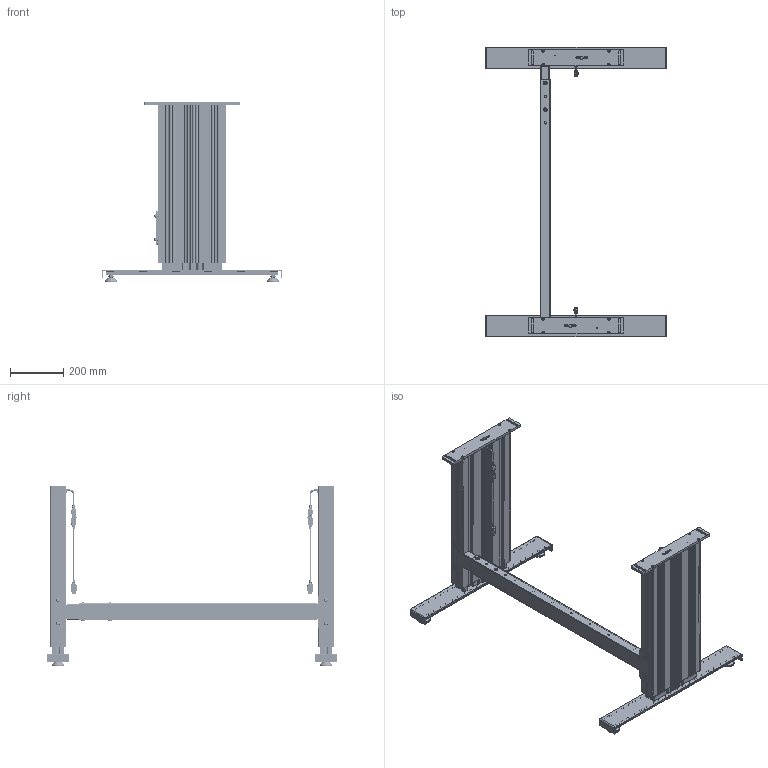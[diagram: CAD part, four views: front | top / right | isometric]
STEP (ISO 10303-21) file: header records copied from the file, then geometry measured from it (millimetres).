
FILE_DESCRIPTION(/* description */ ('Unknown'),/* implementation_level */ '2;1');
FILE_NAME(/* name */ 'Untergestell SL-2 1340 960-1610 XX XX_01-Eingefahren',/* time_stamp */ '2022-01-25T16:43:19+01:00',/* author */ ('Unknown'),/* organization */ ('Unknown'),/* preprocessor_version */ 'ST-DEVELOPER v18.1',/* originating_system */ 'Solid Edge',/* authorisation */ 'Unknown');
FILE_SCHEMA (('FEATURE_BASED_PROCESS_PLANNING','INTEGRATED_CNC_SCHEMA','AUTOMOTIVE_DESIGN {1 0 10303 214 3 1 1}'));
Products named in the file (34): Untergestell SL-2 1340 960-1610 XX XX; 901.01104_oa_0; 126.00137; 119.00302; 119.00401; 142.00166; 124.00201_oa_1; 142.00241; 110.00113_oa_2; 115.00200_oa_3; 124.00151; Kabel Motor Sx; 142.00341; 901.01104_oa_4; 124.00201_oa_5; 110.00113_oa_6; 115.00200_oa_7; 127.00635; 060339~2; 060340~3; Sechskantmutter M6 DIN 934; Scheibe Ø6,4 DIN 125; Halbrundkopfschraube mit Innensechskant M8x12 ISO 7380-1; Scheibe Ø8,4 DIN 125; Nutenstein M8_montiert; Halbrundkopfschraube mit Innensechskant und Bund M6x16 ISO 7380-2; 127.00515; 127.00520; 127.00556; 127.00557; 127.00520_461_469_Kehlnaht 1_oa_8; 113.00006; 113.00006-ohne Mutter; Mutter M10
Assembly tree (71 placements, depth 4):
  Untergestell SL-2 1340 960-1610 XX XX
    901.01104_oa_0
      126.00137
      119.00302
      119.00401
      142.00166  x4
      124.00201_oa_1
      142.00241  x2
      110.00113_oa_2
      115.00200_oa_3
      124.00151
      Kabel Motor Sx
      142.00341  x2
    901.01104_oa_4
      126.00137
      119.00302
      119.00401
      142.00166  x4
      124.00201_oa_5
      142.00241  x2
      110.00113_oa_6
      115.00200_oa_7
      124.00151
      Kabel Motor Sx
      142.00341  x2
    127.00635
      060339~2
      060340~3
      Sechskantmutter M6 DIN 934  x4
      Scheibe Ø6,4 DIN 125  x4
      Halbrundkopfschraube mit Innensechskant M8x12 ISO 7380-1  x4
      Scheibe Ø8,4 DIN 125  x4
      Nutenstein M8_montiert  x4
      Halbrundkopfschraube mit Innensechskant und Bund M6x16 ISO 7380-2  x4
    127.00515  x2
      127.00520
        127.00556
        127.00557
        127.00520_461_469_Kehlnaht 1_oa_8
      113.00006
        113.00006-ohne Mutter
        Mutter M10
Bounding box: 680 x 1090 x 675 mm (x, y, z)
Volume: 8019208.1 mm3; surface area: 4993858.9 mm2
Topology: 88 solids, 88 shells, 7792 faces, 21595 edges, 14243 vertices
Faces by surface type: plane 4422, cylinder 2736, torus 286, bspline 224, cone 108, sphere 16
Full cylindrical faces by diameter (mm): 1.5 x12, 1.82 x12, 2.459 x2, 2.7 x12, 3.242 x8, 3.4 x2, 4 x8, 5 x10, 5.5 x8, 6 x14, 6.4 x4, 6.647 x4, 7 x24, 7.5 x16, 8 x4, 8.376 x10, 8.5 x20, 8.7 x8, 9.5 x4, 10 x4, 12 x4, 13.6 x4, 14 x20, 15 x4, 16.8 x4, 19 x4, 25 x4, 29 x4, 30 x4, 35 x4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
Entity records: 140700 total; most frequent: CARTESIAN_POINT 26062, ORIENTED_EDGE 20176, DIRECTION 19731, EDGE_CURVE 10088, VERTEX_POINT 6752, AXIS2_PLACEMENT_3D 6627, LINE 6477, VECTOR 6477
